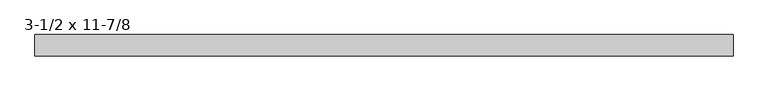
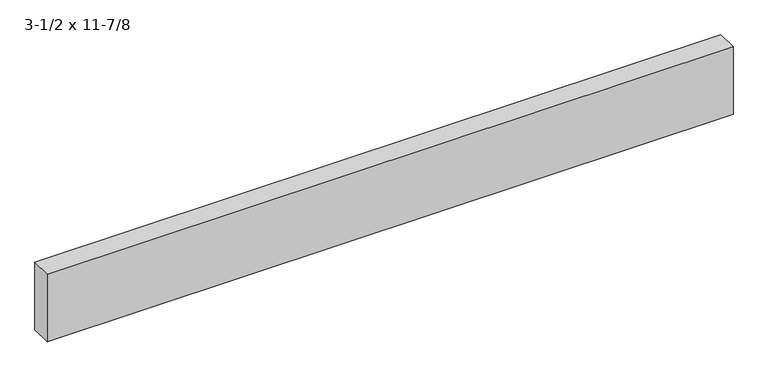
"""IFC4 building model written with IfcOpenShell, lengths in millimetres: beam geometry, Trus Joist - Parallam PSL - Beam Header : 3-1/2 x 11-7/8."""

from ifc_helpers import new_model, si_unit, frame, origin, place, context, project, spatial, polyline, outline, extrude, source, transform, mapped, element, save


def beam_3_1_2_x_11_7_8_8a7d85ab(model_context):
    return source(origin(), model_context, "Body", "SweptSolid", [
        extrude(outline(polyline([(1450.975, 44.45), (1450.975, -44.45), (-1450.975, -44.45), (-1450.975, 44.45), (1450.975, 44.45)])), frame((0.0, 0.0, -150.8125), z_axis=(0.0, 0.0, 1.0), x_axis=(1.0, 0.0, 0.0)), (0.0, 0.0, 1.0), 301.625),
    ])


if __name__ == "__main__":
    model = new_model("IFC4")
    model_context = context("Model", 3, world=origin())
    ifc_project = project(units=[si_unit("LENGTHUNIT", "METRE", prefix="MILLI")], contexts=[model_context])
    site = spatial("IfcSite", under=ifc_project)
    building = spatial("IfcBuilding", under=site)
    placement = place(None, origin())
    beam_3_1_2_x_11_7_8_shape = beam_3_1_2_x_11_7_8_8a7d85ab(model_context)
    element("IfcBeam", 1, ObjectType="Trus Joist - Parallam PSL - Beam Header : 3-1/2 x 11-7/8", at=placement, inside=building, context=model_context, shape_type="MappedRepresentation", body=[
        mapped(beam_3_1_2_x_11_7_8_shape, transform((0.0, 0.0, 0.0), x_axis=(1.0, 0.0, 0.0), y_axis=(0.0, 1.0, 0.0), z_axis=(0.0, 0.0, 1.0))),
    ])
    save(model, "model.ifc")
